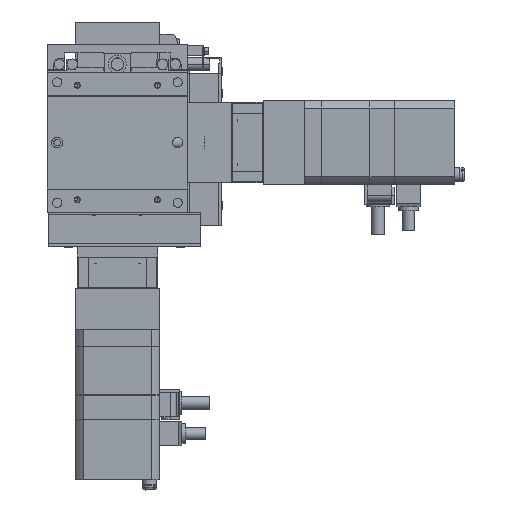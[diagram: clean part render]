
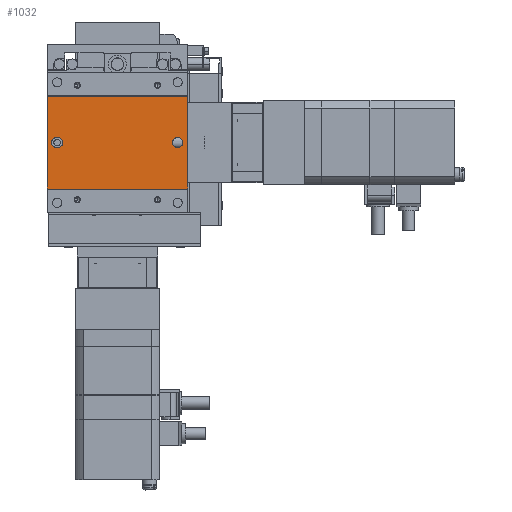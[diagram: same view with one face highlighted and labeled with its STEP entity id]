
A CAD part, front view. The second image highlights one B-rep face of the part: STEP entity #1032.
In plain terms, the highlighted planar face has unit normal (0, -1, 0).
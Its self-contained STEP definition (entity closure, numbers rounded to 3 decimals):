
#1032=ADVANCED_FACE('',(#3095,#3096,#3097),#3098,.F.);
#3095=FACE_BOUND('',#7329,.T.);
#3096=FACE_OUTER_BOUND('',#7330,.T.);
#3097=FACE_BOUND('',#7331,.T.);
#3098=PLANE('',#7332);
#7329=EDGE_LOOP('',(#12108,#12109,#12110,#12111));
#7330=EDGE_LOOP('',(#12112,#12113,#12114,#12115));
#7331=EDGE_LOOP('',(#12116,#12117,#12118));
#7332=AXIS2_PLACEMENT_3D('',#12119,#12120,#12121);
#12108=ORIENTED_EDGE('',*,*,#27256,.F.);
#12109=ORIENTED_EDGE('',*,*,#27257,.F.);
#12110=ORIENTED_EDGE('',*,*,#27258,.F.);
#12111=ORIENTED_EDGE('',*,*,#27259,.F.);
#12112=ORIENTED_EDGE('',*,*,#27245,.T.);
#12113=ORIENTED_EDGE('',*,*,#27260,.F.);
#12114=ORIENTED_EDGE('',*,*,#27261,.F.);
#12115=ORIENTED_EDGE('',*,*,#27262,.T.);
#12116=ORIENTED_EDGE('',*,*,#27142,.F.);
#12117=ORIENTED_EDGE('',*,*,#27141,.F.);
#12118=ORIENTED_EDGE('',*,*,#27263,.F.);
#12119=CARTESIAN_POINT('',(35.0,0.35,23.15));
#12120=DIRECTION('',(-0.0,1.0,0.));
#12121=DIRECTION('',(1.0,0.0,0.0));
#27141=EDGE_CURVE('',#32113,#32115,#32116,.F.);
#27142=EDGE_CURVE('',#32115,#32109,#32117,.F.);
#27245=EDGE_CURVE('',#32310,#32308,#32311,.T.);
#27256=EDGE_CURVE('',#32330,#32331,#32332,.F.);
#27257=EDGE_CURVE('',#32333,#32330,#32334,.T.);
#27258=EDGE_CURVE('',#32335,#32333,#32336,.F.);
#27259=EDGE_CURVE('',#32331,#32335,#32337,.T.);
#27260=EDGE_CURVE('',#32338,#32308,#32339,.T.);
#27261=EDGE_CURVE('',#32340,#32338,#32341,.T.);
#27262=EDGE_CURVE('',#32340,#32310,#32342,.T.);
#27263=EDGE_CURVE('',#32109,#32113,#32343,.F.);
#32109=VERTEX_POINT('',#40180);
#32113=VERTEX_POINT('',#40185);
#32115=VERTEX_POINT('',#40188);
#32116=CIRCLE('',#40189,2.5);
#32117=CIRCLE('',#40190,2.5);
#32308=VERTEX_POINT('',#40439);
#32310=VERTEX_POINT('',#40442);
#32311=LINE('',#40443,#40444);
#32330=VERTEX_POINT('',#40472);
#32331=VERTEX_POINT('',#40473);
#32332=CIRCLE('',#40474,2.5);
#32333=VERTEX_POINT('',#40475);
#32334=LINE('',#40476,#40477);
#32335=VERTEX_POINT('',#40478);
#32336=CIRCLE('',#40479,2.5);
#32337=LINE('',#40480,#40481);
#32338=VERTEX_POINT('',#40482);
#32339=LINE('',#40483,#40484);
#32340=VERTEX_POINT('',#40485);
#32341=LINE('',#40486,#40487);
#32342=LINE('',#40488,#40489);
#32343=CIRCLE('',#40490,2.5);
#40180=CARTESIAN_POINT('',(27.5,0.35,0.));
#40185=CARTESIAN_POINT('',(32.5,0.35,0.));
#40188=CARTESIAN_POINT('',(30.0,0.35,2.5));
#40189=AXIS2_PLACEMENT_3D('',#51315,#51316,#51317);
#40190=AXIS2_PLACEMENT_3D('',#51318,#51319,#51320);
#40439=CARTESIAN_POINT('',(-35.0,0.35,-23.15));
#40442=CARTESIAN_POINT('',(-35.0,0.35,23.15));
#40443=CARTESIAN_POINT('',(-35.0,0.35,23.15));
#40444=VECTOR('',#51509,1000.0);
#40472=CARTESIAN_POINT('',(-30.25,0.35,2.5));
#40473=CARTESIAN_POINT('',(-30.25,0.35,-2.5));
#40474=AXIS2_PLACEMENT_3D('',#51522,#51523,#51524);
#40475=CARTESIAN_POINT('',(-29.75,0.35,2.5));
#40476=CARTESIAN_POINT('',(35.0,0.35,2.5));
#40477=VECTOR('',#51525,1000.0);
#40478=CARTESIAN_POINT('',(-29.75,0.35,-2.5));
#40479=AXIS2_PLACEMENT_3D('',#51526,#51527,#51528);
#40480=CARTESIAN_POINT('',(35.0,0.35,-2.5));
#40481=VECTOR('',#51529,1000.0);
#40482=CARTESIAN_POINT('',(35.0,0.35,-23.15));
#40483=CARTESIAN_POINT('',(35.0,0.35,-23.15));
#40484=VECTOR('',#51530,1000.0);
#40485=CARTESIAN_POINT('',(35.0,0.35,23.15));
#40486=CARTESIAN_POINT('',(35.0,0.35,23.15));
#40487=VECTOR('',#51531,1000.0);
#40488=CARTESIAN_POINT('',(35.0,0.35,23.15));
#40489=VECTOR('',#51532,1000.0);
#40490=AXIS2_PLACEMENT_3D('',#51533,#51534,#51535);
#51315=CARTESIAN_POINT('',(30.0,0.35,0.0));
#51316=DIRECTION('',(0.0,1.0,0.));
#51317=DIRECTION('',(0.0,0.,1.0));
#51318=CARTESIAN_POINT('',(30.0,0.35,0.0));
#51319=DIRECTION('',(0.0,1.0,0.));
#51320=DIRECTION('',(0.0,0.,1.0));
#51509=DIRECTION('',(0.0,0.,-1.0));
#51522=CARTESIAN_POINT('',(-30.25,0.35,0.));
#51523=DIRECTION('',(0.0,1.0,0.));
#51524=DIRECTION('',(0.0,0.,1.0));
#51525=DIRECTION('',(-1.0,0.0,0.0));
#51526=CARTESIAN_POINT('',(-29.75,0.35,0.));
#51527=DIRECTION('',(0.0,1.0,0.));
#51528=DIRECTION('',(0.0,0.,1.0));
#51529=DIRECTION('',(1.0,0.0,0.0));
#51530=DIRECTION('',(-1.0,0.0,0.0));
#51531=DIRECTION('',(0.0,0.,-1.0));
#51532=DIRECTION('',(-1.0,0.0,0.0));
#51533=CARTESIAN_POINT('',(30.0,0.35,0.0));
#51534=DIRECTION('',(0.0,1.0,0.));
#51535=DIRECTION('',(0.0,0.,1.0));
